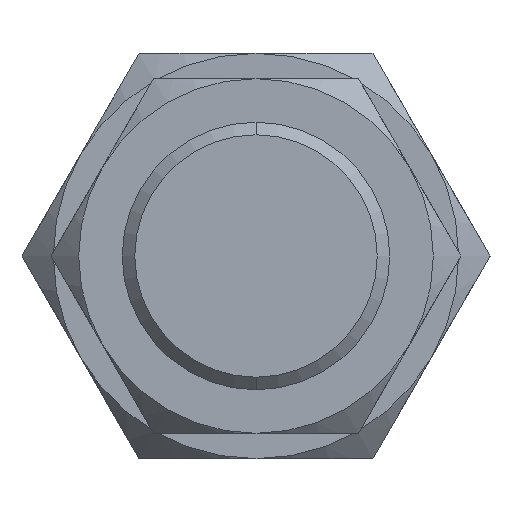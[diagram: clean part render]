
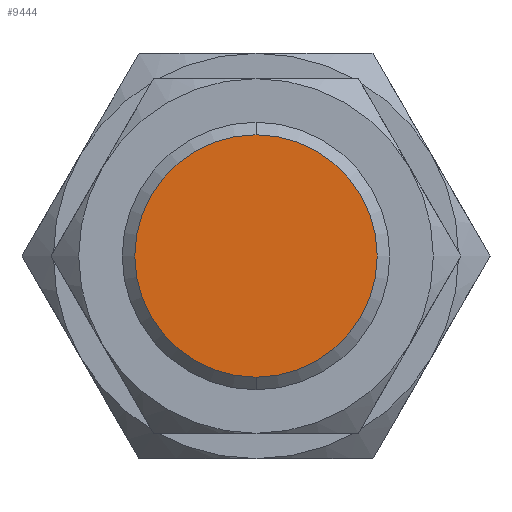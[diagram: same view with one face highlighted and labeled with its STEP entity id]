
A CAD part, front view. The second image highlights one B-rep face of the part: STEP entity #9444.
In plain terms, the highlighted planar face has unit normal (0, -1, 0).
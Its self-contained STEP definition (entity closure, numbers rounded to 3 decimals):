
#3705 = CIRCLE ( 'NONE', #24311, 7.25 ) ;
#3973 = ORIENTED_EDGE ( 'NONE', *, *, #21153, .T. ) ;
#6664 = DIRECTION ( 'NONE',  ( 0., -1., 0. ) ) ;
#6807 = CARTESIAN_POINT ( 'NONE',  ( 0., -29.25, 0. ) ) ;
#9444 = ADVANCED_FACE ( 'NONE', ( #28817 ), #19267, .T. ) ;
#12821 = DIRECTION ( 'NONE',  ( 0., -1., 0. ) ) ;
#13256 = EDGE_CURVE ( 'NONE', #14482, #36804, #3705, .T. ) ;
#13570 = DIRECTION ( 'NONE',  ( 0., 0., -1. ) ) ;
#14482 = VERTEX_POINT ( 'NONE', #27559 ) ;
#16861 = CARTESIAN_POINT ( 'NONE',  ( 0., -29.25, 7.25 ) ) ;
#17046 = DIRECTION ( 'NONE',  ( 0., -1., 0. ) ) ;
#18345 = EDGE_LOOP ( 'NONE', ( #3973, #40878 ) ) ;
#19267 = PLANE ( 'NONE',  #22252 ) ;
#21153 = EDGE_CURVE ( 'NONE', #36804, #14482, #34337, .T. ) ;
#22252 = AXIS2_PLACEMENT_3D ( 'NONE', #39070, #12821, #42421 ) ;
#24311 = AXIS2_PLACEMENT_3D ( 'NONE', #30468, #6664, #13570 ) ;
#27559 = CARTESIAN_POINT ( 'NONE',  ( 0., -29.25, -7.25 ) ) ;
#28817 = FACE_OUTER_BOUND ( 'NONE', #18345, .T. ) ;
#30468 = CARTESIAN_POINT ( 'NONE',  ( 0., -29.25, 0. ) ) ;
#30601 = DIRECTION ( 'NONE',  ( 0., 0., -1. ) ) ;
#34337 = CIRCLE ( 'NONE', #40782, 7.25 ) ;
#36804 = VERTEX_POINT ( 'NONE', #16861 ) ;
#39070 = CARTESIAN_POINT ( 'NONE',  ( 0., -29.25, 8. ) ) ;
#40782 = AXIS2_PLACEMENT_3D ( 'NONE', #6807, #17046, #30601 ) ;
#40878 = ORIENTED_EDGE ( 'NONE', *, *, #13256, .T. ) ;
#42421 = DIRECTION ( 'NONE',  ( 0., 0., -1. ) ) ;
